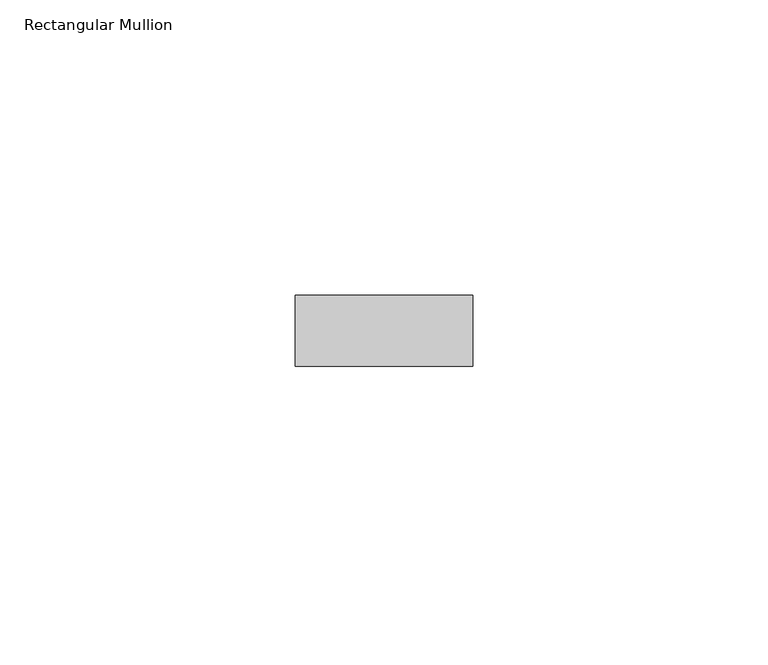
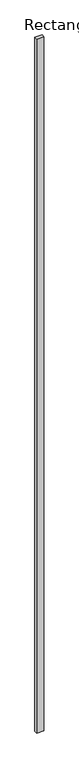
"""IFC4 building model written with IfcOpenShell, lengths in millimetres: member geometry, Rectangular Mullion : RSen_21_CWM_support profile - 30x12 - right_gen_duco projects."""

from ifc_helpers import new_model, si_unit, frame, origin, place, context, project, spatial, polyline, outline, extrude, source, transform, mapped, element, save


def rectangular_mullion_a32b29a9(model_context):
    return source(origin(), model_context, "Body", "SweptSolid", [
        extrude(outline(polyline([(-80.0, 1.0), (-50.0, 1.0), (-50.0, -11.0), (-80.0, -11.0), (-80.0, 1.0)])), frame((0.0, 0.0, -3000.0), z_axis=(0.0, 0.0, 1.0), x_axis=(1.0, 0.0, 0.0)), (0.0, 0.0, 1.0), 3000.0),
    ])


if __name__ == "__main__":
    model = new_model("IFC4")
    model_context = context("Model", 3, world=origin())
    ifc_project = project(units=[si_unit("LENGTHUNIT", "METRE", prefix="MILLI")], contexts=[model_context])
    site = spatial("IfcSite", under=ifc_project)
    building = spatial("IfcBuilding", under=site)
    placement = place(None, origin())
    rectangular_mullion_shape = rectangular_mullion_a32b29a9(model_context)
    element("IfcMember", 1, ObjectType="Rectangular Mullion : RSen_21_CWM_support profile - 30x12 - right_gen_duco projects", at=placement, inside=building, context=model_context, shape_type="MappedRepresentation", body=[
        mapped(rectangular_mullion_shape, transform((0.0, 0.0, 0.0), x_axis=(1.0, 0.0, 0.0), y_axis=(0.0, 1.0, 0.0), z_axis=(0.0, 0.0, 1.0))),
    ])
    save(model, "model.ifc")
